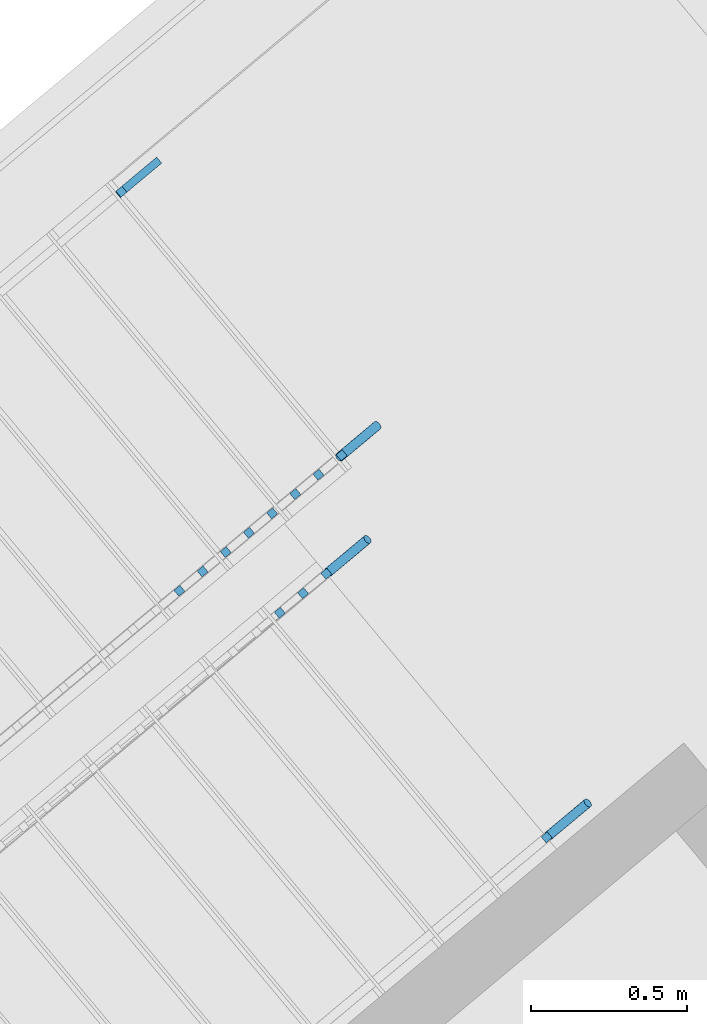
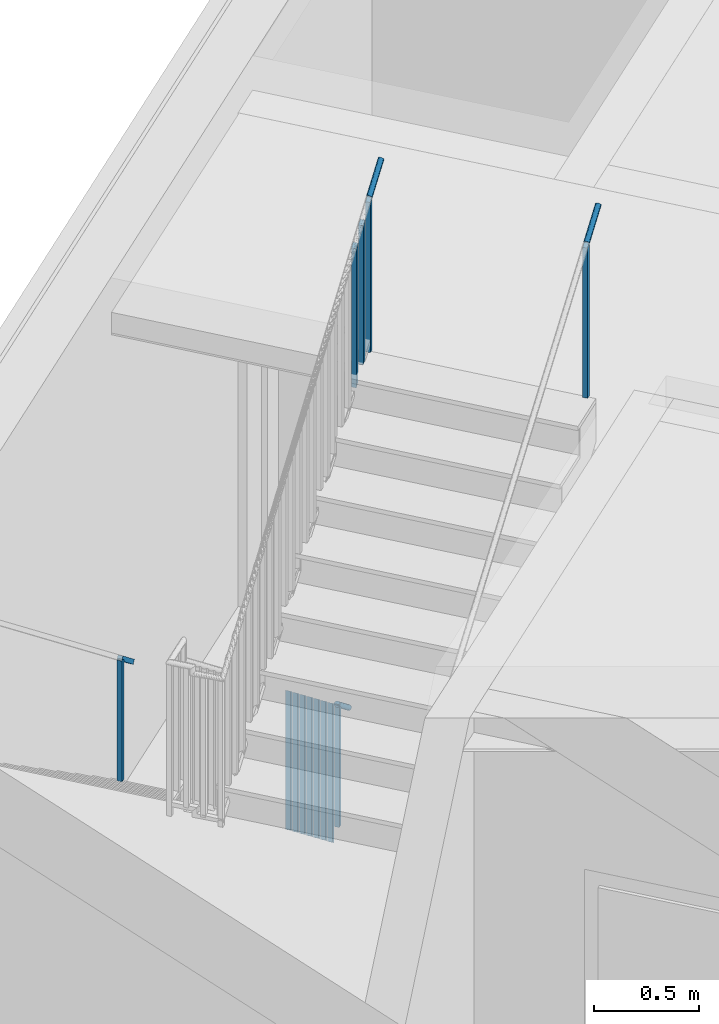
# One storey, part 16 of 17: 17 building element parts, 3 elements without a shape of their own.
"""IFC4 building model written with IfcOpenShell, lengths in metres."""

from ifc_helpers import new_model, entity, si_unit, converted_unit, derived_unit, direction, frame, origin_with_axes, place, context, subcontext, project, spatial, polygons, material, type_object, element, aggregate, save


model = new_model("IFC4")

# Units and contexts
model_context = context("Model", 3, precision=1e-05, world=origin_with_axes(), true_north=direction((0.0, 1.0)))
body_context = subcontext(model_context, "Body", "Model", "MODEL_VIEW")
ifc_project = project(units=[si_unit("LENGTHUNIT", "METRE"), si_unit("AREAUNIT", "SQUARE_METRE"), si_unit("VOLUMEUNIT", "CUBIC_METRE"), converted_unit("PLANEANGLEUNIT", "DEGREE", entity("IfcPlaneAngleMeasure", 0.0174532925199), si_unit("PLANEANGLEUNIT", "RADIAN"), dimensions=[0, 0, 0, 0, 0, 0, 0]), converted_unit("TIMEUNIT", "Year", entity("IfcTimeMeasure", 31556926.0), si_unit("TIMEUNIT", "SECOND"), dimensions=[0, 0, 1, 0, 0, 0, 0]), si_unit("MASSUNIT", "GRAM", prefix="KILO"), si_unit("THERMODYNAMICTEMPERATUREUNIT", "DEGREE_CELSIUS"), si_unit("LUMINOUSINTENSITYUNIT", "LUMEN"), si_unit("ENERGYUNIT", "JOULE", prefix="MEGA"), derived_unit("THERMALCONDUCTANCEUNIT", [(si_unit("POWERUNIT", "WATT"), 1), (si_unit("LENGTHUNIT", "METRE"), -1), (si_unit("THERMODYNAMICTEMPERATUREUNIT", "KELVIN"), -1)]), derived_unit("SPECIFICHEATCAPACITYUNIT", [(si_unit("ENERGYUNIT", "JOULE"), 1), (si_unit("MASSUNIT", "GRAM", prefix="KILO"), -1), (si_unit("THERMODYNAMICTEMPERATUREUNIT", "KELVIN"), -1)]), derived_unit("MASSDENSITYUNIT", [(si_unit("MASSUNIT", "GRAM", prefix="KILO"), 1), (si_unit("VOLUMEUNIT", "CUBIC_METRE"), -1)])], contexts=[model_context])

# Site, building, storey
site_placement = place(None, frame((-0.00153261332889, -0.00661245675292, 0.0), z_axis=(0.0, 0.0, 1.0), x_axis=(1.0, 0.0, 0.0)))
site = spatial("IfcSite", under=ifc_project, at=site_placement, Name="Site", CompositionType="ELEMENT")
building_placement = place(site_placement, origin_with_axes())
building = spatial("IfcBuilding", under=site, at=building_placement, Name="Building", CompositionType="ELEMENT")
storey_placement = place(building_placement, frame((0.0, 0.0, -3.3), z_axis=(0.0, 0.0, 1.0), x_axis=(1.0, 0.0, 0.0)))
storey = spatial("IfcBuildingStorey", under=building, at=storey_placement, Name="UG1", CompositionType="ELEMENT", Elevation=-3.3)

# Railing, building element parts
railing_type = type_object("IfcRailingType", Name="Geländerart", PredefinedType="NOTDEFINED")
railing_1_placement = place(storey_placement, frame((-0.202679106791, 23.9992163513, 0.0), z_axis=(0.0, 0.0, 1.0), x_axis=(1.0, 0.0, 0.0)))
railing_1 = element("IfcRailing", 1, at=railing_1_placement, inside=storey, type_object=railing_type, Name="Geländer - 001", PredefinedType="NOTDEFINED")
ifc_material = material(Name="BEKLEIDUNG")
building_element_part_1_placement = place(railing_1_placement, origin_with_axes())
building_element_part_1 = element("IfcBuildingElementPart", 2, at=building_element_part_1_placement, material=ifc_material, Name="BEKLEIDUNG", PredefinedType="NOTDEFINED", context=body_context, shape_type="Tessellation", body=[
    polygons([(-0.245534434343, -0.123702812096, 0.176666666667), (-0.229505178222, -0.14288777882, 0.176666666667), (-0.229505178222, -0.14288777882, 0.889724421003), (-0.245534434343, -0.123702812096, 0.889724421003), (-0.226349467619, -0.107673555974, 0.176666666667), (-0.210320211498, -0.126858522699, 0.176666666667), (-0.210320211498, -0.126858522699, 0.870275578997), (-0.226349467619, -0.107673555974, 0.870275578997)], [[[1, 2, 3, 4]], [[1, 5, 6, 2]], [[2, 6, 7, 3]], [[4, 3, 7, 8]], [[5, 1, 4, 8]], [[6, 5, 8, 7]]], closed=True),
])
building_element_part_2_placement = place(railing_1_placement, origin_with_axes())
building_element_part_2 = element("IfcBuildingElementPart", 3, at=building_element_part_2_placement, material=ifc_material, Name="BEKLEIDUNG", PredefinedType="NOTDEFINED", context=body_context, shape_type="Tessellation", body=[
    polygons([(-0.244612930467, -0.119675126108, 0.88816072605), (-0.243239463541, -0.118824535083, 0.890216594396), (-0.122100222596, -0.0176113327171, 0.767411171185), (-0.123473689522, -0.0184619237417, 0.765355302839), (-0.245694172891, -0.120875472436, 0.886104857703), (-0.246450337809, -0.122389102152, 0.884111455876), (-0.246858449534, -0.124170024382, 0.882241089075), (-0.246906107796, -0.126164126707, 0.880550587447), (-0.246591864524, -0.128310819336, 0.87909131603), (-0.24592526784, -0.130544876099, 0.877907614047), (-0.244926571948, -0.132798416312, 0.877035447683), (-0.243626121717, -0.135002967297, 0.876501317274), (-0.242063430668, -0.137091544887, 0.8763214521), (-0.240285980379, -0.139000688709, 0.876501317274), (-0.238347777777, -0.140672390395, 0.877035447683), (-0.236307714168, -0.142055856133, 0.877907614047), (-0.234227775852, -0.143109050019, 0.87909131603), (-0.232171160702, -0.143799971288, 0.880550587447), (-0.230200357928, -0.144107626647, 0.882241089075), (-0.228375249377, -0.144022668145, 0.884111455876), (-0.226751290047, -0.143547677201, 0.886104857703), (-0.225377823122, -0.142697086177, 0.88816072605), (-0.224296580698, -0.141496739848, 0.890216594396), (-0.223540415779, -0.139983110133, 0.892209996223), (-0.223132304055, -0.138202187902, 0.894080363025), (-0.223084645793, -0.136208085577, 0.895770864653), (-0.223398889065, -0.134061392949, 0.89723013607), (-0.224065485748, -0.131827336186, 0.898413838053), (-0.225064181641, -0.129573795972, 0.899286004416), (-0.226364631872, -0.127369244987, 0.899820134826), (-0.227927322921, -0.125280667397, 0.9), (-0.22970477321, -0.123371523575, 0.899820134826), (-0.231642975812, -0.12169982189, 0.899286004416), (-0.233683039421, -0.120316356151, 0.898413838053), (-0.235762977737, -0.119263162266, 0.89723013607), (-0.237819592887, -0.118572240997, 0.895770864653), (-0.23979039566, -0.118264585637, 0.894080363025), (-0.241615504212, -0.11834954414, 0.892209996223), (-0.120476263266, -0.0171363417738, 0.769404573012), (-0.118651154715, -0.0170513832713, 0.771274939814), (-0.116680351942, -0.0173590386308, 0.772965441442), (-0.114623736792, -0.0180499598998, 0.774424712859), (-0.112543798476, -0.0191031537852, 0.775608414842), (-0.110503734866, -0.0204866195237, 0.776480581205), (-0.108565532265, -0.0221583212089, 0.777014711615), (-0.106788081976, -0.0240674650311, 0.777194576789), (-0.105225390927, -0.0261560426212, 0.777014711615), (-0.103924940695, -0.0283605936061, 0.776480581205), (-0.102926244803, -0.0306141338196, 0.775608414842), (-0.102259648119, -0.0328481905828, 0.774424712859), (-0.101945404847, -0.0349948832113, 0.772965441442), (-0.10199306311, -0.0369889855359, 0.771274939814), (-0.102401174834, -0.0387699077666, 0.769404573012), (-0.103157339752, -0.0402835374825, 0.767411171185), (-0.104238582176, -0.0414838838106, 0.765355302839), (-0.105612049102, -0.0423344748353, 0.763299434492), (-0.107236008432, -0.0428094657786, 0.761306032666), (-0.109061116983, -0.042894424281, 0.759435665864), (-0.111031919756, -0.0425867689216, 0.757745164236), (-0.113088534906, -0.0418958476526, 0.756285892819), (-0.115168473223, -0.0408426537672, 0.755102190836), (-0.117208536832, -0.0394591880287, 0.754230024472), (-0.119146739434, -0.0377874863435, 0.753695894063), (-0.120924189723, -0.0358783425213, 0.753516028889), (-0.122486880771, -0.0337897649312, 0.753695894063), (-0.123787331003, -0.0315852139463, 0.754230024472), (-0.124786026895, -0.0293316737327, 0.755102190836), (-0.125452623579, -0.0270976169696, 0.756285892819), (-0.125766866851, -0.0249509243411, 0.757745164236), (-0.125719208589, -0.0229568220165, 0.759435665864), (-0.125311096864, -0.0211758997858, 0.761306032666), (-0.124554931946, -0.0196622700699, 0.763299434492)], [[[1, 2, 3, 4]], [[1, 5, 6, 7, 8, 9, 10, 11, 12, 13, 14, 15, 16, 17, 18, 19, 20, 21, 22, 23, 24, 25, 26, 27, 28, 29, 30, 31, 32, 33, 34, 35, 36, 37, 38, 2]], [[2, 38, 39, 3]], [[4, 3, 39, 40, 41, 42, 43, 44, 45, 46, 47, 48, 49, 50, 51, 52, 53, 54, 55, 56, 57, 58, 59, 60, 61, 62, 63, 64, 65, 66, 67, 68, 69, 70, 71, 72]], [[5, 1, 4, 72]], [[6, 5, 72, 71]], [[7, 6, 71, 70]], [[8, 7, 70, 69]], [[9, 8, 69, 68]], [[10, 9, 68, 67]], [[11, 10, 67, 66]], [[12, 11, 66, 65]], [[13, 12, 65, 64]], [[14, 13, 64, 63]], [[15, 14, 63, 62]], [[16, 15, 62, 61]], [[17, 16, 61, 60]], [[18, 17, 60, 59]], [[19, 18, 59, 58]], [[20, 19, 58, 57]], [[21, 20, 57, 56]], [[22, 21, 56, 55]], [[23, 22, 55, 54]], [[24, 23, 54, 53]], [[25, 24, 53, 52]], [[26, 25, 52, 51]], [[27, 26, 51, 50]], [[28, 27, 50, 49]], [[29, 28, 49, 48]], [[30, 29, 48, 47]], [[31, 30, 47, 46]], [[32, 31, 46, 45]], [[33, 32, 45, 44]], [[34, 33, 44, 43]], [[35, 34, 43, 42]], [[36, 35, 42, 41]], [[37, 36, 41, 40]], [[38, 37, 40, 39]]], closed=True),
])
building_element_part_3_placement = place(railing_1_placement, origin_with_axes())
building_element_part_3 = element("IfcBuildingElementPart", 4, at=building_element_part_3_placement, material=ifc_material, Name="BEKLEIDUNG", PredefinedType="NOTDEFINED", context=body_context, shape_type="Tessellation", body=[
    polygons([(-0.25921670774, -0.506323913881, 3.18), (-0.275246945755, -0.487139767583, 3.18), (-0.275246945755, -0.487139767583, 4.06887737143), (-0.25921670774, -0.506323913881, 4.06887737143), (-0.278400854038, -0.522354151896, 3.18), (-0.294431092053, -0.503170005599, 3.18), (-0.294431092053, -0.503170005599, 4.05112262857), (-0.278400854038, -0.522354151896, 4.05112262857)], [[[1, 2, 3, 4]], [[1, 5, 6, 2]], [[2, 6, 7, 3]], [[4, 3, 7, 8]], [[5, 1, 4, 8]], [[6, 5, 8, 7]]], closed=True),
])
building_element_part_4_placement = place(railing_1_placement, origin_with_axes())
building_element_part_4 = element("IfcBuildingElementPart", 5, at=building_element_part_4_placement, material=ifc_material, Name="BEKLEIDUNG", PredefinedType="NOTDEFINED", context=body_context, shape_type="Tessellation", body=[
    polygons([(-0.279777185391, -0.48766732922, 4.06777035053), (-0.280788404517, -0.488809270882, 4.06989400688), (-0.155660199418, -0.384252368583, 4.18569895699), (-0.154648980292, -0.383110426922, 4.18357530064), (-0.278473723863, -0.486875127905, 4.06564669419), (-0.276917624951, -0.486456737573, 4.06358756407), (-0.275156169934, -0.486424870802, 4.0616555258), (-0.273242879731, -0.486780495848, 4.05990928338), (-0.271235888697, -0.487512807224, 4.05840189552), (-0.269196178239, -0.488599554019, 4.05717916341), (-0.267185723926, -0.490007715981, 4.05627823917), (-0.265265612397, -0.491694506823, 4.05572649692), (-0.263494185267, -0.493608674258, 4.05554070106), (-0.261925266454, -0.495692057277, 4.05572649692), (-0.260606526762, -0.497881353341, 4.05627823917), (-0.25957803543, -0.500110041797, 4.05717916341), (-0.258871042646, -0.502310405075, 4.05840189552), (-0.258507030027, -0.504415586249, 4.05990928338), (-0.258497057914, -0.506361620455, 4.0616555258), (-0.258841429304, -0.508089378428, 4.06358756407), (-0.259529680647, -0.509546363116, 4.06564669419), (-0.260540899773, -0.510688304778, 4.06777035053), (-0.261844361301, -0.511480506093, 4.06989400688), (-0.263400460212, -0.511898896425, 4.071953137), (-0.265161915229, -0.511930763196, 4.07388517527), (-0.267075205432, -0.51157513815, 4.07563141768), (-0.269082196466, -0.510842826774, 4.07713880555), (-0.271121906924, -0.509756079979, 4.07836153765), (-0.273132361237, -0.508347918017, 4.07926246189), (-0.275052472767, -0.506661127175, 4.07981420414), (-0.276823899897, -0.50474695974, 4.08), (-0.278392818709, -0.502663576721, 4.07981420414), (-0.279711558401, -0.500474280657, 4.07926246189), (-0.280740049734, -0.498245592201, 4.07836153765), (-0.281447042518, -0.496045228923, 4.07713880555), (-0.281811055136, -0.493940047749, 4.07563141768), (-0.281821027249, -0.491994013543, 4.07388517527), (-0.281476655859, -0.49026625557, 4.071953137), (-0.156348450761, -0.385709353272, 4.18775808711), (-0.156692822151, -0.387437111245, 4.18969012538), (-0.156682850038, -0.38938314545, 4.19143636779), (-0.156318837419, -0.391488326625, 4.19294375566), (-0.155611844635, -0.393688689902, 4.19416648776), (-0.154583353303, -0.395917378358, 4.195067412), (-0.153264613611, -0.398106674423, 4.19561915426), (-0.151695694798, -0.400190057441, 4.19580495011), (-0.149924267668, -0.402104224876, 4.19561915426), (-0.148004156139, -0.403791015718, 4.195067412), (-0.145993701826, -0.405199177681, 4.19416648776), (-0.143953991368, -0.406285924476, 4.19294375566), (-0.141947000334, -0.407018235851, 4.19143636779), (-0.140033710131, -0.407373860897, 4.18969012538), (-0.138272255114, -0.407341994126, 4.18775808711), (-0.136716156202, -0.406923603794, 4.18569895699), (-0.135412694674, -0.406131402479, 4.18357530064), (-0.134401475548, -0.404989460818, 4.1814516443), (-0.133713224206, -0.403532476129, 4.17939251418), (-0.133368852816, -0.401804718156, 4.17746047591), (-0.133378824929, -0.399858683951, 4.1757142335), (-0.133742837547, -0.397753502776, 4.17420684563), (-0.134449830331, -0.395553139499, 4.17298411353), (-0.135478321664, -0.393324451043, 4.17208318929), (-0.136797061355, -0.391135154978, 4.17153144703), (-0.138365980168, -0.38905177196, 4.17134565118), (-0.140137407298, -0.387137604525, 4.17153144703), (-0.142057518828, -0.385450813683, 4.17208318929), (-0.14406797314, -0.38404265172, 4.17298411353), (-0.146107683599, -0.382955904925, 4.17420684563), (-0.148114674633, -0.38222359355, 4.1757142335), (-0.150027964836, -0.381867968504, 4.17746047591), (-0.151789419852, -0.381899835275, 4.17939251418), (-0.153345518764, -0.382318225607, 4.1814516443)], [[[1, 2, 3, 4]], [[1, 5, 6, 7, 8, 9, 10, 11, 12, 13, 14, 15, 16, 17, 18, 19, 20, 21, 22, 23, 24, 25, 26, 27, 28, 29, 30, 31, 32, 33, 34, 35, 36, 37, 38, 2]], [[2, 38, 39, 3]], [[4, 3, 39, 40, 41, 42, 43, 44, 45, 46, 47, 48, 49, 50, 51, 52, 53, 54, 55, 56, 57, 58, 59, 60, 61, 62, 63, 64, 65, 66, 67, 68, 69, 70, 71, 72]], [[5, 1, 4, 72]], [[6, 5, 72, 71]], [[7, 6, 71, 70]], [[8, 7, 70, 69]], [[9, 8, 69, 68]], [[10, 9, 68, 67]], [[11, 10, 67, 66]], [[12, 11, 66, 65]], [[13, 12, 65, 64]], [[14, 13, 64, 63]], [[15, 14, 63, 62]], [[16, 15, 62, 61]], [[17, 16, 61, 60]], [[18, 17, 60, 59]], [[19, 18, 59, 58]], [[20, 19, 58, 57]], [[21, 20, 57, 56]], [[22, 21, 56, 55]], [[23, 22, 55, 54]], [[24, 23, 54, 53]], [[25, 24, 53, 52]], [[26, 25, 52, 51]], [[27, 26, 51, 50]], [[28, 27, 50, 49]], [[29, 28, 49, 48]], [[30, 29, 48, 47]], [[31, 30, 47, 46]], [[32, 31, 46, 45]], [[33, 32, 45, 44]], [[34, 33, 44, 43]], [[35, 34, 43, 42]], [[36, 35, 42, 41]], [[37, 36, 41, 40]], [[38, 37, 40, 39]]], closed=True),
])
building_element_part_5_placement = place(railing_1_placement, origin_with_axes())
building_element_part_5 = element("IfcBuildingElementPart", 6, at=building_element_part_5_placement, material=ifc_material, Name="BEKLEIDUNG", PredefinedType="NOTDEFINED", context=body_context, shape_type="Tessellation", body=[
    polygons([(-0.31974564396, -0.185707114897, 0.154956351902), (-0.303716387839, -0.204892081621, 0.154956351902), (-0.303716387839, -0.204892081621, 0.962456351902), (-0.31974564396, -0.185707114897, 0.962456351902), (-0.300560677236, -0.169677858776, 0.135507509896), (-0.284531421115, -0.1888628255, 0.135507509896), (-0.284531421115, -0.1888628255, 0.943007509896), (-0.300560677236, -0.169677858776, 0.943007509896)], [[[1, 2, 3, 4]], [[1, 5, 6, 2]], [[2, 6, 7, 3]], [[4, 3, 7, 8]], [[5, 1, 4, 8]], [[6, 5, 8, 7]]], closed=True),
])
building_element_part_6_placement = place(railing_1_placement, origin_with_axes())
building_element_part_6 = element("IfcBuildingElementPart", 7, at=building_element_part_6_placement, material=ifc_material, Name="BEKLEIDUNG", PredefinedType="NOTDEFINED", context=body_context, shape_type="Tessellation", body=[
    polygons([(-0.393956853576, -0.247711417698, 0.2301882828), (-0.377927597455, -0.266896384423, 0.2301882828), (-0.377927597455, -0.266896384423, 1.0376882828), (-0.393956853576, -0.247711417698, 1.0376882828), (-0.374771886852, -0.231682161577, 0.210739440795), (-0.358742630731, -0.250867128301, 0.210739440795), (-0.358742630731, -0.250867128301, 1.01823944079), (-0.374771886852, -0.231682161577, 1.01823944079)], [[[1, 2, 3, 4]], [[1, 5, 6, 2]], [[2, 6, 7, 3]], [[4, 3, 7, 8]], [[5, 1, 4, 8]], [[6, 5, 8, 7]]], closed=True),
])
building_element_part_7_placement = place(railing_1_placement, origin_with_axes())
building_element_part_7 = element("IfcBuildingElementPart", 8, at=building_element_part_7_placement, material=ifc_material, Name="BEKLEIDUNG", PredefinedType="NOTDEFINED", context=body_context, shape_type="Tessellation", body=[
    polygons([(-0.468168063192, -0.3097157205, 0.305420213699), (-0.452138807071, -0.328900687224, 0.305420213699), (-0.452138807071, -0.328900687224, 1.1129202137), (-0.468168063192, -0.3097157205, 1.1129202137), (-0.448983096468, -0.293686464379, 0.285971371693), (-0.432953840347, -0.312871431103, 0.285971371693), (-0.432953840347, -0.312871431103, 1.09347137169), (-0.448983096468, -0.293686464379, 1.09347137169)], [[[1, 2, 3, 4]], [[1, 5, 6, 2]], [[2, 6, 7, 3]], [[4, 3, 7, 8]], [[5, 1, 4, 8]], [[6, 5, 8, 7]]], closed=True),
])
building_element_part_8_placement = place(railing_1_placement, origin_with_axes())
building_element_part_8 = element("IfcBuildingElementPart", 9, at=building_element_part_8_placement, material=ifc_material, Name="BEKLEIDUNG", PredefinedType="NOTDEFINED", context=body_context, shape_type="Tessellation", body=[
    polygons([(-0.542379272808, -0.371720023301, 0.380652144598), (-0.526350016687, -0.390904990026, 0.380652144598), (-0.526350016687, -0.390904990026, 1.1881521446), (-0.542379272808, -0.371720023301, 1.1881521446), (-0.523194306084, -0.35569076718, 0.361203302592), (-0.507165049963, -0.374875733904, 0.361203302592), (-0.507165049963, -0.374875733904, 1.16870330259), (-0.523194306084, -0.35569076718, 1.16870330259)], [[[1, 2, 3, 4]], [[1, 5, 6, 2]], [[2, 6, 7, 3]], [[4, 3, 7, 8]], [[5, 1, 4, 8]], [[6, 5, 8, 7]]], closed=True),
])
building_element_part_9_placement = place(railing_1_placement, origin_with_axes())
building_element_part_9 = element("IfcBuildingElementPart", 10, at=building_element_part_9_placement, material=ifc_material, Name="BEKLEIDUNG", PredefinedType="NOTDEFINED", context=body_context, shape_type="Tessellation", body=[
    polygons([(-0.616590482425, -0.433724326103, 0.455884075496), (-0.600561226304, -0.452909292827, 0.455884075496), (-0.600561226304, -0.452909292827, 1.2633840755), (-0.616590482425, -0.433724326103, 1.2633840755), (-0.597405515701, -0.417695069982, 0.436435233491), (-0.58137625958, -0.436880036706, 0.436435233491), (-0.58137625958, -0.436880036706, 1.24393523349), (-0.597405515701, -0.417695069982, 1.24393523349)], [[[1, 2, 3, 4]], [[1, 5, 6, 2]], [[2, 6, 7, 3]], [[4, 3, 7, 8]], [[5, 1, 4, 8]], [[6, 5, 8, 7]]], closed=True),
])
building_element_part_10_placement = place(railing_1_placement, origin_with_axes())
building_element_part_10 = element("IfcBuildingElementPart", 11, at=building_element_part_10_placement, material=ifc_material, Name="BEKLEIDUNG", PredefinedType="NOTDEFINED", context=body_context, shape_type="Tessellation", body=[
    polygons([(-0.690801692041, -0.495728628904, 0.531116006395), (-0.67477243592, -0.514913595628, 0.531116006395), (-0.67477243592, -0.514913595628, 1.3386160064), (-0.690801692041, -0.495728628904, 1.3386160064), (-0.671616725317, -0.479699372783, 0.511667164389), (-0.655587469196, -0.498884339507, 0.511667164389), (-0.655587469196, -0.498884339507, 1.31916716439), (-0.671616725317, -0.479699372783, 1.31916716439)], [[[1, 2, 3, 4]], [[1, 5, 6, 2]], [[2, 6, 7, 3]], [[4, 3, 7, 8]], [[5, 1, 4, 8]], [[6, 5, 8, 7]]], closed=True),
])
building_element_part_11_placement = place(railing_1_placement, origin_with_axes())
building_element_part_11 = element("IfcBuildingElementPart", 12, at=building_element_part_11_placement, material=ifc_material, Name="BEKLEIDUNG", PredefinedType="NOTDEFINED", context=body_context, shape_type="Tessellation", body=[
    polygons([(-0.765012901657, -0.557732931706, 0.606347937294), (-0.748983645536, -0.57691789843, 0.606347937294), (-0.748983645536, -0.57691789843, 1.41384793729), (-0.765012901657, -0.557732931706, 1.41384793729), (-0.745827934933, -0.541703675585, 0.586899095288), (-0.729798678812, -0.560888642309, 0.586899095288), (-0.729798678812, -0.560888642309, 1.39439909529), (-0.745827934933, -0.541703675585, 1.39439909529)], [[[1, 2, 3, 4]], [[1, 5, 6, 2]], [[2, 6, 7, 3]], [[4, 3, 7, 8]], [[5, 1, 4, 8]], [[6, 5, 8, 7]]], closed=True),
])
building_element_part_12_placement = place(railing_1_placement, origin_with_axes())
building_element_part_12 = element("IfcBuildingElementPart", 13, at=building_element_part_12_placement, material=ifc_material, Name="BEKLEIDUNG", PredefinedType="NOTDEFINED", context=body_context, shape_type="Tessellation", body=[
    polygons([(-0.408310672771, -0.630906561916, 3.12089234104), (-0.424340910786, -0.611722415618, 3.12089234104), (-0.424340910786, -0.611722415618, 3.92839234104), (-0.408310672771, -0.630906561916, 3.92839234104), (-0.427494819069, -0.646936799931, 3.10313759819), (-0.443525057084, -0.627752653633, 3.10313759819), (-0.443525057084, -0.627752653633, 3.91063759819), (-0.427494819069, -0.646936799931, 3.91063759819)], [[[1, 2, 3, 4]], [[1, 5, 6, 2]], [[2, 6, 7, 3]], [[4, 3, 7, 8]], [[5, 1, 4, 8]], [[6, 5, 8, 7]]], closed=True),
])
building_element_part_13_placement = place(railing_1_placement, origin_with_axes())
building_element_part_13 = element("IfcBuildingElementPart", 14, at=building_element_part_13_placement, material=ifc_material, Name="BEKLEIDUNG", PredefinedType="NOTDEFINED", context=body_context, shape_type="Tessellation", body=[
    polygons([(-0.333763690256, -0.568615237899, 3.18988485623), (-0.349793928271, -0.549431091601, 3.18988485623), (-0.349793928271, -0.549431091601, 3.99738485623), (-0.333763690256, -0.568615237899, 3.99738485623), (-0.352947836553, -0.584645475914, 3.17213011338), (-0.368978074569, -0.565461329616, 3.17213011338), (-0.368978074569, -0.565461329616, 3.97963011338), (-0.352947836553, -0.584645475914, 3.97963011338)], [[[1, 2, 3, 4]], [[1, 5, 6, 2]], [[2, 6, 7, 3]], [[4, 3, 7, 8]], [[5, 1, 4, 8]], [[6, 5, 8, 7]]], closed=True),
])
aggregate(railing_1, [building_element_part_1, building_element_part_2, building_element_part_3, building_element_part_4, building_element_part_5, building_element_part_6, building_element_part_7, building_element_part_8, building_element_part_9, building_element_part_10, building_element_part_11, building_element_part_12, building_element_part_13])

railing_2_placement = place(storey_placement, frame((0.454398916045, 22.776202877, 1.76666666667), z_axis=(0.0, 0.0, 1.0), x_axis=(1.0, 0.0, 0.0)))
railing_2 = element("IfcRailing", 15, at=railing_2_placement, inside=storey, type_object=railing_type, Name="Geländer - 001", PredefinedType="NOTDEFINED")
building_element_part_14_placement = place(railing_2_placement, origin_with_axes())
building_element_part_14 = element("IfcBuildingElementPart", 16, at=building_element_part_14_placement, material=ifc_material, Name="BEKLEIDUNG", PredefinedType="NOTDEFINED", context=body_context, shape_type="Tessellation", body=[
    polygons([(-0.246178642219, -0.12425896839, 1.41333333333), (-0.230148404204, -0.143443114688, 1.41333333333), (-0.230148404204, -0.143443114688, 2.28443017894), (-0.246178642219, -0.12425896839, 2.28443017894), (-0.226994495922, -0.108228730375, 1.41333333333), (-0.210964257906, -0.127412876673, 1.41333333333), (-0.210964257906, -0.127412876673, 2.30223648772), (-0.226994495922, -0.108228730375, 2.30223648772)], [[[1, 2, 3, 4]], [[1, 5, 6, 2]], [[2, 6, 7, 3]], [[4, 3, 7, 8]], [[5, 1, 4, 8]], [[6, 5, 8, 7]]], closed=True),
])
building_element_part_15_placement = place(railing_2_placement, origin_with_axes())
building_element_part_15 = element("IfcBuildingElementPart", 17, at=building_element_part_15_placement, material=ifc_material, Name="BEKLEIDUNG", PredefinedType="NOTDEFINED", context=body_context, shape_type="Tessellation", body=[
    polygons([(-0.231511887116, -0.108745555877, 2.30111559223), (-0.23252533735, -0.109889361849, 2.30323718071), (-0.107518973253, -0.00543426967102, 2.41926537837), (-0.106505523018, -0.00429046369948, 2.4171437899), (-0.230206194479, -0.107951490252, 2.29899400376), (-0.228647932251, -0.107531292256, 2.29693687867), (-0.226884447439, -0.107497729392, 2.29500672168), (-0.224969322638, -0.107851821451, 2.29326217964), (-0.222960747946, -0.108582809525, 2.29175625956), (-0.220919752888, -0.109668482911, 2.29053471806), (-0.218908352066, -0.111075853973, 2.28963467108), (-0.216987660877, -0.112762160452, 2.28908346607), (-0.215216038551, -0.114676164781, 2.28889785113), (-0.213647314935, -0.116759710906, 2.28908346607), (-0.212329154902, -0.118949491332, 2.28963467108), (-0.211301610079, -0.12117897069, 2.29053471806), (-0.210595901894, -0.123380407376, 2.29175625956), (-0.210233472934, -0.125486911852, 2.29326217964), (-0.210225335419, -0.127434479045, 2.29500672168), (-0.210571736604, -0.129163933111, 2.29693687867), (-0.211262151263, -0.130622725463, 2.29899400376), (-0.212275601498, -0.131766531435, 2.30111559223), (-0.213581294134, -0.13256059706, 2.30323718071), (-0.215139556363, -0.132980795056, 2.3052943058), (-0.216903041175, -0.13301435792, 2.30722446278), (-0.218818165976, -0.132660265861, 2.30896900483), (-0.220826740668, -0.131929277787, 2.31047492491), (-0.222867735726, -0.130843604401, 2.3116964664), (-0.224879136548, -0.12943623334, 2.31259651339), (-0.226799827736, -0.12774992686, 2.31314771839), (-0.228571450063, -0.125835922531, 2.31333333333), (-0.230140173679, -0.123752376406, 2.31314771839), (-0.231458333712, -0.12156259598, 2.31259651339), (-0.232485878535, -0.119333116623, 2.3116964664), (-0.23319158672, -0.117131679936, 2.31047492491), (-0.23355401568, -0.11502517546, 2.30896900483), (-0.233562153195, -0.113077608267, 2.30722446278), (-0.23321575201, -0.111348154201, 2.3052943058), (-0.108209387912, -0.00689306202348, 2.42132250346), (-0.108555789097, -0.00862251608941, 2.42325266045), (-0.108547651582, -0.0105700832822, 2.42499720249), (-0.108185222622, -0.0126765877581, 2.42650312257), (-0.107479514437, -0.0148780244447, 2.42772466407), (-0.106451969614, -0.0171075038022, 2.42862471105), (-0.105133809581, -0.0192972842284, 2.42917591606), (-0.103565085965, -0.0213808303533, 2.429361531), (-0.101793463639, -0.0232948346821, 2.42917591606), (-0.0998727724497, -0.0249811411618, 2.42862471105), (-0.0978613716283, -0.0263885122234, 2.42772466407), (-0.0958203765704, -0.0274741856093, 2.42650312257), (-0.0938118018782, -0.0282051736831, 2.42499720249), (-0.0918966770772, -0.028559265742, 2.42325266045), (-0.0901331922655, -0.0285257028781, 2.42132250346), (-0.0885749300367, -0.0281055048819, 2.41926537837), (-0.0872692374, -0.0273114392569, 2.4171437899), (-0.0862557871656, -0.0261676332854, 2.41502220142), (-0.085565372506, -0.0247088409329, 2.41296507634), (-0.0852189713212, -0.022979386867, 2.41103491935), (-0.085227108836, -0.0210318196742, 2.4092903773), (-0.0855895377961, -0.0189253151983, 2.40778445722), (-0.0862952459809, -0.0167238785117, 2.40656291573), (-0.0873227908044, -0.0144943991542, 2.40566286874), (-0.088640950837, -0.012304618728, 2.40511166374), (-0.0902096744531, -0.0102210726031, 2.4049260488), (-0.0919812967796, -0.00830706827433, 2.40511166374), (-0.0939019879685, -0.00662076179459, 2.40566286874), (-0.09591338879, -0.00521339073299, 2.40656291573), (-0.0979543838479, -0.00412771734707, 2.40778445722), (-0.0999629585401, -0.00339672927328, 2.4092903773), (-0.101878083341, -0.00304263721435, 2.41103491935), (-0.103641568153, -0.0030762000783, 2.41296507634), (-0.105199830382, -0.00349639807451, 2.41502220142)], [[[1, 2, 3, 4]], [[1, 5, 6, 7, 8, 9, 10, 11, 12, 13, 14, 15, 16, 17, 18, 19, 20, 21, 22, 23, 24, 25, 26, 27, 28, 29, 30, 31, 32, 33, 34, 35, 36, 37, 38, 2]], [[2, 38, 39, 3]], [[4, 3, 39, 40, 41, 42, 43, 44, 45, 46, 47, 48, 49, 50, 51, 52, 53, 54, 55, 56, 57, 58, 59, 60, 61, 62, 63, 64, 65, 66, 67, 68, 69, 70, 71, 72]], [[5, 1, 4, 72]], [[6, 5, 72, 71]], [[7, 6, 71, 70]], [[8, 7, 70, 69]], [[9, 8, 69, 68]], [[10, 9, 68, 67]], [[11, 10, 67, 66]], [[12, 11, 66, 65]], [[13, 12, 65, 64]], [[14, 13, 64, 63]], [[15, 14, 63, 62]], [[16, 15, 62, 61]], [[17, 16, 61, 60]], [[18, 17, 60, 59]], [[19, 18, 59, 58]], [[20, 19, 58, 57]], [[21, 20, 57, 56]], [[22, 21, 56, 55]], [[23, 22, 55, 54]], [[24, 23, 54, 53]], [[25, 24, 53, 52]], [[26, 25, 52, 51]], [[27, 26, 51, 50]], [[28, 27, 50, 49]], [[29, 28, 49, 48]], [[30, 29, 48, 47]], [[31, 30, 47, 46]], [[32, 31, 46, 45]], [[33, 32, 45, 44]], [[34, 33, 44, 43]], [[35, 34, 43, 42]], [[36, 35, 42, 41]], [[37, 36, 41, 40]], [[38, 37, 40, 39]]], closed=True),
])
aggregate(railing_2, [building_element_part_14, building_element_part_15])

railing_3_placement = place(storey_placement, frame((-0.972083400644, 24.9200947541, 0.0), z_axis=(0.0, 0.0, 1.0), x_axis=(1.0, 0.0, 0.0)))
railing_3 = element("IfcRailing", 18, at=railing_3_placement, inside=storey, type_object=railing_type, Name="Geländer - 001", PredefinedType="NOTDEFINED")
building_element_part_16_placement = place(railing_3_placement, origin_with_axes())
building_element_part_16 = element("IfcBuildingElementPart", 19, at=building_element_part_16_placement, material=ifc_material, Name="BEKLEIDUNG", PredefinedType="NOTDEFINED", context=body_context, shape_type="Tessellation", body=[
    polygons([(-0.181417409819, -0.200442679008, 0.176666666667), (-0.165388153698, -0.219627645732, 0.176666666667), (-0.165388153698, -0.219627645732, 0.889748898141), (-0.181417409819, -0.200442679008, 0.889748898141), (-0.162232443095, -0.184413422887, 0.176666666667), (-0.146203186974, -0.203598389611, 0.176666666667), (-0.146203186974, -0.203598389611, 0.870251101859), (-0.162232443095, -0.184413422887, 0.870251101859)], [[[1, 2, 3, 4]], [[1, 5, 6, 2]], [[2, 6, 7, 3]], [[4, 3, 7, 8]], [[5, 1, 4, 8]], [[6, 5, 8, 7]]], closed=True),
])
building_element_part_17_placement = place(railing_3_placement, origin_with_axes())
building_element_part_17 = element("IfcBuildingElementPart", 20, at=building_element_part_17_placement, material=ifc_material, Name="BEKLEIDUNG", PredefinedType="NOTDEFINED", context=body_context, shape_type="Tessellation", body=[
    polygons([(-0.155795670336, -0.211613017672, 0.9), (-0.167594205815, -0.221470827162, 0.880286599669), (-0.0465699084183, -0.120353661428, 0.757288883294), (-0.0347713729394, -0.110495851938, 0.777002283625), (-0.171824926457, -0.192428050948, 0.9), (-0.183623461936, -0.202285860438, 0.880286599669), (-0.0625991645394, -0.101168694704, 0.757288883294), (-0.0508006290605, -0.0913108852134, 0.777002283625)], [[[1, 2, 3, 4]], [[1, 5, 6, 2]], [[2, 6, 7, 3]], [[4, 3, 7, 8]], [[5, 1, 4, 8]], [[6, 5, 8, 7]]], closed=True),
])
aggregate(railing_3, [building_element_part_16, building_element_part_17])

save(model, "model.ifc")
